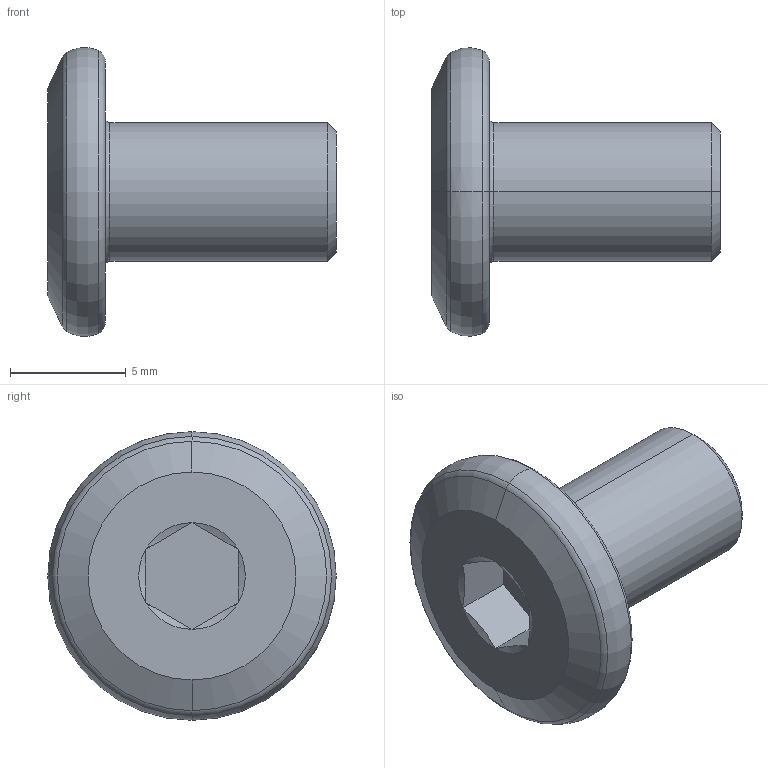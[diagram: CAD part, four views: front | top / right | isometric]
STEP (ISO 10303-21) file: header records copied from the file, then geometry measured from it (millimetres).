
FILE_DESCRIPTION (( 'STEP AP203' ), '1' );
FILE_NAME ('LGD-304D-M6x10.STEP', '2026-08-13T07:49:17', ( '' ), ( '' ), 'SwSTEP 2.0', 'SolidWorks 2020', '' );
FILE_SCHEMA (( 'CONFIG_CONTROL_DESIGN' ));
Length unit declared in the file: millimetre
Products named in the file (1): LGD-304D-M6x10
Bounding box: 12.5 x 12.49 x 12.49 mm (x, y, z)
Volume: 520.7 mm3; surface area: 516 mm2
Topology: 1 solids, 1 shells, 30 faces, 56 edges, 30 vertices
Faces by surface type: cone 10, plane 10, torus 8, cylinder 2
Entity records: 835 total; most frequent: CARTESIAN_POINT 151, DIRECTION 144, ORIENTED_EDGE 112, AXIS2_PLACEMENT_3D 63, EDGE_CURVE 56, EDGE_LOOP 32, CIRCLE 32, ADVANCED_FACE 30
